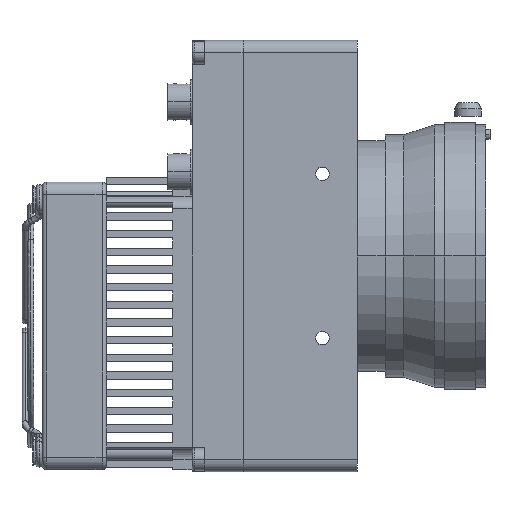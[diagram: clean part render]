
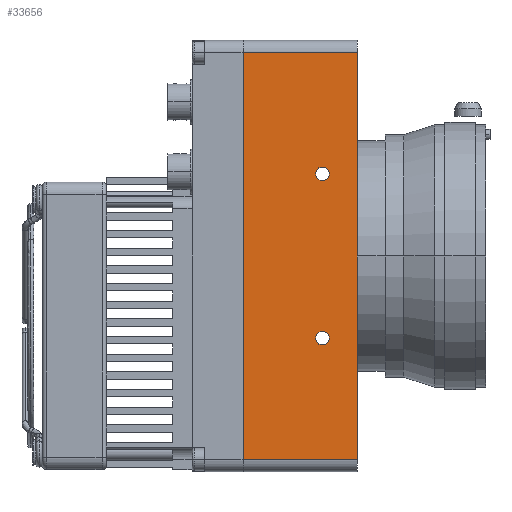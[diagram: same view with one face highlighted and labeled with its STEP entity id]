
A CAD part, left-side view. The second image highlights one B-rep face of the part: STEP entity #33656.
In plain terms, the highlighted planar face has unit normal (-1, 0, 0).
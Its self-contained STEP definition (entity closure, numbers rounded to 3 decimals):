
#283 = EDGE_CURVE ( 'NONE', #313, #8960, #11728, .T. ) ;
#313 = VERTEX_POINT ( 'NONE', #36863 ) ;
#362 = DIRECTION ( 'NONE',  ( -1., 0., 0. ) ) ;
#784 = AXIS2_PLACEMENT_3D ( 'NONE', #17955, #34761, #20591 ) ;
#1160 = DIRECTION ( 'NONE',  ( 0., 0., 1. ) ) ;
#1263 = EDGE_CURVE ( 'NONE', #313, #19282, #2927, .T. ) ;
#2263 = EDGE_CURVE ( 'NONE', #19282, #13020, #12161, .T. ) ;
#2773 = DIRECTION ( 'NONE',  ( 0., 0., 1. ) ) ;
#2927 = LINE ( 'NONE', #11190, #23025 ) ;
#3051 = AXIS2_PLACEMENT_3D ( 'NONE', #3369, #362, #28591 ) ;
#3289 = ORIENTED_EDGE ( 'NONE', *, *, #36399, .F. ) ;
#3369 = CARTESIAN_POINT ( 'NONE',  ( -41.006, -6.854, 70. ) ) ;
#3416 = CIRCLE ( 'NONE', #35114, 1.65 ) ;
#4163 = VECTOR ( 'NONE', #2773, 1000. ) ;
#5820 = EDGE_CURVE ( 'NONE', #15216, #10287, #3416, .T. ) ;
#5945 = VECTOR ( 'NONE', #32752, 1000. ) ;
#6066 = VERTEX_POINT ( 'NONE', #26798 ) ;
#6669 = CARTESIAN_POINT ( 'NONE',  ( -41.006, -6.854, 71.65 ) ) ;
#6762 = ORIENTED_EDGE ( 'NONE', *, *, #15062, .F. ) ;
#6830 = VERTEX_POINT ( 'NONE', #6669 ) ;
#8115 = CIRCLE ( 'NONE', #784, 1.65 ) ;
#8960 = VERTEX_POINT ( 'NONE', #33408 ) ;
#9368 = ORIENTED_EDGE ( 'NONE', *, *, #35102, .F. ) ;
#10287 = VERTEX_POINT ( 'NONE', #12888 ) ;
#10395 = PLANE ( 'NONE',  #25513 ) ;
#11190 = CARTESIAN_POINT ( 'NONE',  ( -41.006, -3.354, 40.5 ) ) ;
#11728 = LINE ( 'NONE', #28026, #4163 ) ;
#12161 = LINE ( 'NONE', #12460, #5945 ) ;
#12460 = CARTESIAN_POINT ( 'NONE',  ( -41.006, -15.354, 142.5 ) ) ;
#12559 = CARTESIAN_POINT ( 'NONE',  ( -41.006, -6.854, 110. ) ) ;
#12888 = CARTESIAN_POINT ( 'NONE',  ( -41.006, -6.854, 108.35 ) ) ;
#13020 = VERTEX_POINT ( 'NONE', #15699 ) ;
#13226 = DIRECTION ( 'NONE',  ( 0., 0., -1. ) ) ;
#13302 = ORIENTED_EDGE ( 'NONE', *, *, #2263, .T. ) ;
#14832 = ORIENTED_EDGE ( 'NONE', *, *, #19779, .T. ) ;
#15062 = EDGE_CURVE ( 'NONE', #10287, #15216, #8115, .T. ) ;
#15216 = VERTEX_POINT ( 'NONE', #30723 ) ;
#15329 = DIRECTION ( 'NONE',  ( -1., 0., 0. ) ) ;
#15699 = CARTESIAN_POINT ( 'NONE',  ( -41.006, -15.354, 139.5 ) ) ;
#15967 = CARTESIAN_POINT ( 'NONE',  ( -41.006, -3.354, 142.5 ) ) ;
#17132 = VECTOR ( 'NONE', #30765, 1000. ) ;
#17709 = FACE_BOUND ( 'NONE', #32269, .T. ) ;
#17955 = CARTESIAN_POINT ( 'NONE',  ( -41.006, -6.854, 110. ) ) ;
#18411 = EDGE_LOOP ( 'NONE', ( #3289, #9368 ) ) ;
#18560 = AXIS2_PLACEMENT_3D ( 'NONE', #29633, #15329, #1160 ) ;
#18603 = FACE_BOUND ( 'NONE', #18411, .T. ) ;
#19282 = VERTEX_POINT ( 'NONE', #31065 ) ;
#19779 = EDGE_CURVE ( 'NONE', #13020, #8960, #24778, .T. ) ;
#20591 = DIRECTION ( 'NONE',  ( 0., 0., 1. ) ) ;
#22022 = CARTESIAN_POINT ( 'NONE',  ( -41.006, -3.354, 139.5 ) ) ;
#22679 = ORIENTED_EDGE ( 'NONE', *, *, #283, .F. ) ;
#23025 = VECTOR ( 'NONE', #23066, 1000. ) ;
#23066 = DIRECTION ( 'NONE',  ( 0., -1., 0. ) ) ;
#24778 = LINE ( 'NONE', #22022, #17132 ) ;
#25205 = EDGE_LOOP ( 'NONE', ( #13302, #14832, #22679, #30557 ) ) ;
#25513 = AXIS2_PLACEMENT_3D ( 'NONE', #15967, #35884, #13226 ) ;
#25638 = ORIENTED_EDGE ( 'NONE', *, *, #5820, .F. ) ;
#26798 = CARTESIAN_POINT ( 'NONE',  ( -41.006, -6.854, 68.35 ) ) ;
#28026 = CARTESIAN_POINT ( 'NONE',  ( -41.006, 12.466, 37.5 ) ) ;
#28369 = CIRCLE ( 'NONE', #18560, 1.65 ) ;
#28591 = DIRECTION ( 'NONE',  ( 0., 0., 1. ) ) ;
#29594 = DIRECTION ( 'NONE',  ( -1., 0., 0. ) ) ;
#29633 = CARTESIAN_POINT ( 'NONE',  ( -41.006, -6.854, 70. ) ) ;
#30557 = ORIENTED_EDGE ( 'NONE', *, *, #1263, .T. ) ;
#30723 = CARTESIAN_POINT ( 'NONE',  ( -41.006, -6.854, 111.65 ) ) ;
#30765 = DIRECTION ( 'NONE',  ( 0., 1., 0. ) ) ;
#31065 = CARTESIAN_POINT ( 'NONE',  ( -41.006, -15.354, 40.5 ) ) ;
#32269 = EDGE_LOOP ( 'NONE', ( #25638, #6762 ) ) ;
#32752 = DIRECTION ( 'NONE',  ( 0., 0., 1. ) ) ;
#32867 = DIRECTION ( 'NONE',  ( 0., 0., 1. ) ) ;
#33408 = CARTESIAN_POINT ( 'NONE',  ( -41.006, 12.466, 139.5 ) ) ;
#33656 = ADVANCED_FACE ( 'NONE', ( #18603, #17709, #35179 ), #10395, .F. ) ;
#34761 = DIRECTION ( 'NONE',  ( -1., 0., 0. ) ) ;
#35102 = EDGE_CURVE ( 'NONE', #6066, #6830, #28369, .T. ) ;
#35114 = AXIS2_PLACEMENT_3D ( 'NONE', #12559, #29594, #32867 ) ;
#35179 = FACE_OUTER_BOUND ( 'NONE', #25205, .T. ) ;
#35884 = DIRECTION ( 'NONE',  ( 1., 0., 0. ) ) ;
#36399 = EDGE_CURVE ( 'NONE', #6830, #6066, #36727, .T. ) ;
#36727 = CIRCLE ( 'NONE', #3051, 1.65 ) ;
#36863 = CARTESIAN_POINT ( 'NONE',  ( -41.006, 12.466, 40.5 ) ) ;
